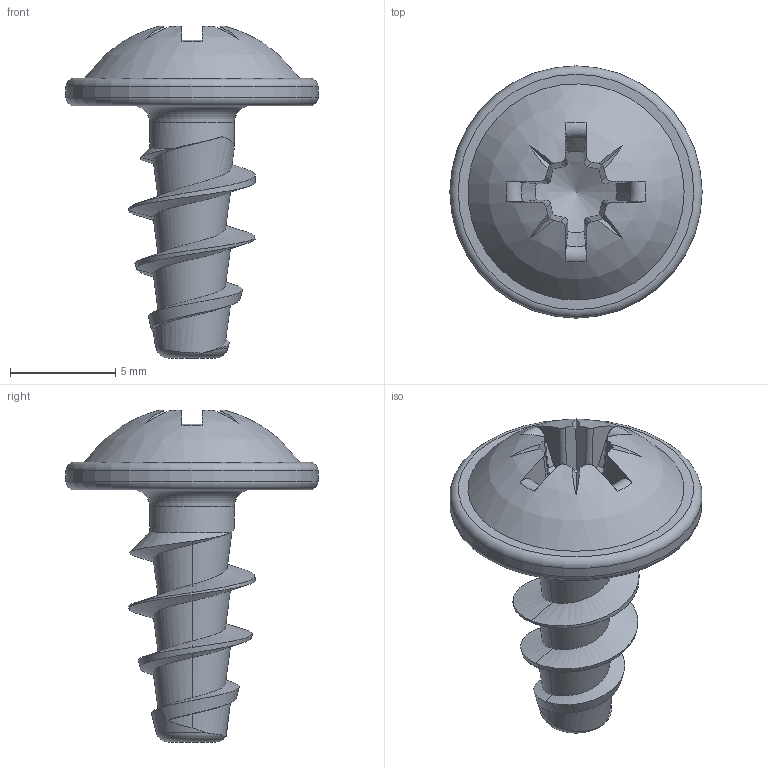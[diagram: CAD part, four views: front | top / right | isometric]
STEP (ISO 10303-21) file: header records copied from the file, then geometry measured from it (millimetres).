
FILE_DESCRIPTION(/* description */ (''),/* implementation_level */ '2;1');
FILE_NAME(/* name */ 'KN1031-Neu-STS-60x12-Z3.step',/* time_stamp */ '2017-10-12T14:11:33+02:00',/* author */ (''),/* organization */ (''),/* preprocessor_version */ 'ST-DEVELOPER v16',/* originating_system */ 'SIEMENS PLM Software NX 10.0',/* authorisation */ '');
FILE_SCHEMA (('AUTOMOTIVE_DESIGN { 1 0 10303 214 3 1 1 1 }'));
Length unit declared in the file: millimetre
Products named in the file (1): KN1031-Neu-STS-60x12-Z3
Bounding box: 12 x 12 x 15.79 mm (x, y, z)
Volume: 382.6 mm3; surface area: 522.8 mm2
Topology: 1 solids, 1 shells, 68 faces, 182 edges, 117 vertices
Faces by surface type: plane 27, bspline 14, cylinder 11, torus 8, cone 7, sphere 1
Full cylindrical faces by diameter (mm): 4.03 x1, 12 x1
Entity records: 3243 total; most frequent: CARTESIAN_POINT 1744, ORIENTED_EDGE 336, DIRECTION 249, EDGE_CURVE 168, VERTEX_POINT 112, AXIS2_PLACEMENT_3D 103, EDGE_LOOP 77, B_SPLINE_CURVE_WITH_KNOTS 77
